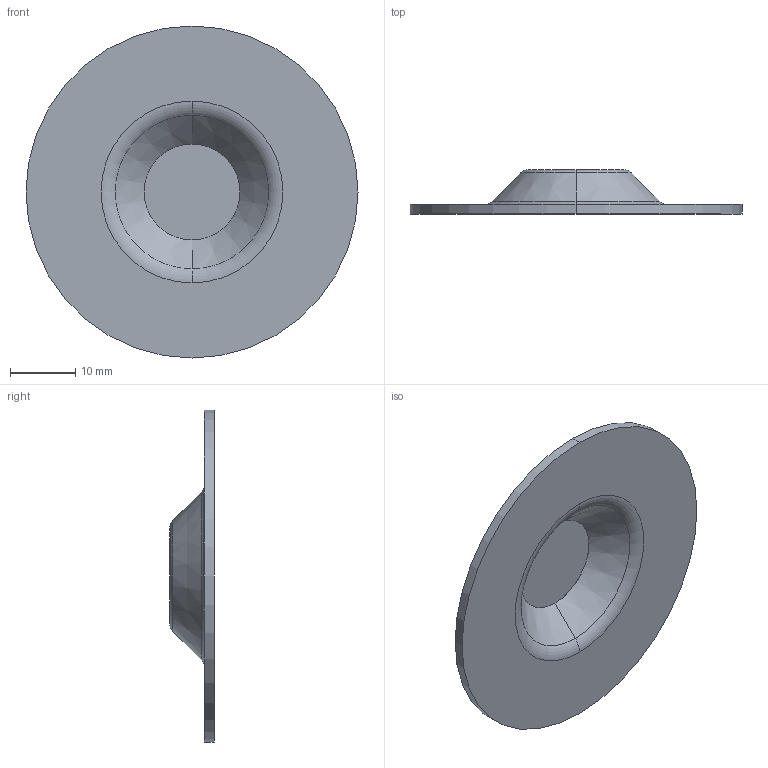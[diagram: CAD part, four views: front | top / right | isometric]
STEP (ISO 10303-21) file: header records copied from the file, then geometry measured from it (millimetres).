
FILE_DESCRIPTION (( 'STEP AP203' ), '1' );
FILE_NAME ('SO 1031219-10.STEP', '2024-09-16T17:18:39', ( '' ), ( '' ), 'SwSTEP 2.0', 'SolidWorks 2024', '' );
FILE_SCHEMA (( 'CONFIG_CONTROL_DESIGN' ));
Length unit declared in the file: inch
Products named in the file (1): SO 1031219-10
Bounding box: 50.8 x 6.81 x 50.8 mm (x, y, z)
Volume: 3237 mm3; surface area: 4559.2 mm2
Topology: 1 solids, 1 shells, 18 faces, 34 edges, 20 vertices
Faces by surface type: torus 8, cone 4, plane 4, cylinder 2
Entity records: 541 total; most frequent: DIRECTION 100, CARTESIAN_POINT 73, ORIENTED_EDGE 68, AXIS2_PLACEMENT_3D 47, EDGE_CURVE 34, CIRCLE 28, VERTEX_POINT 20, EDGE_LOOP 20
